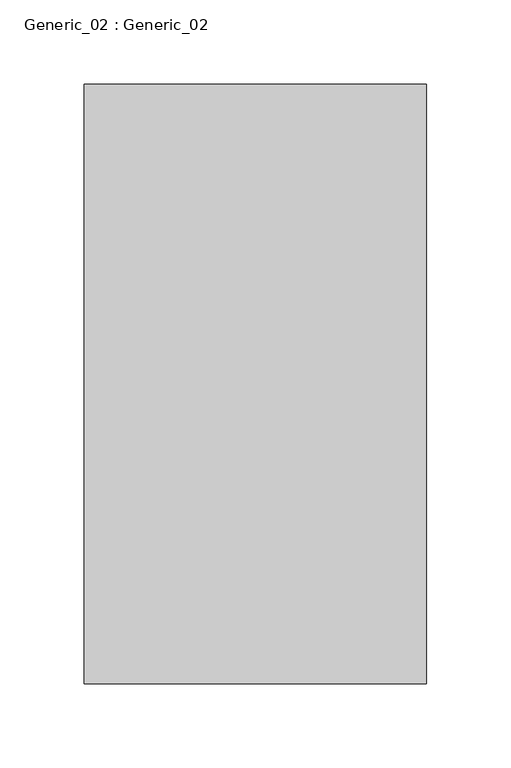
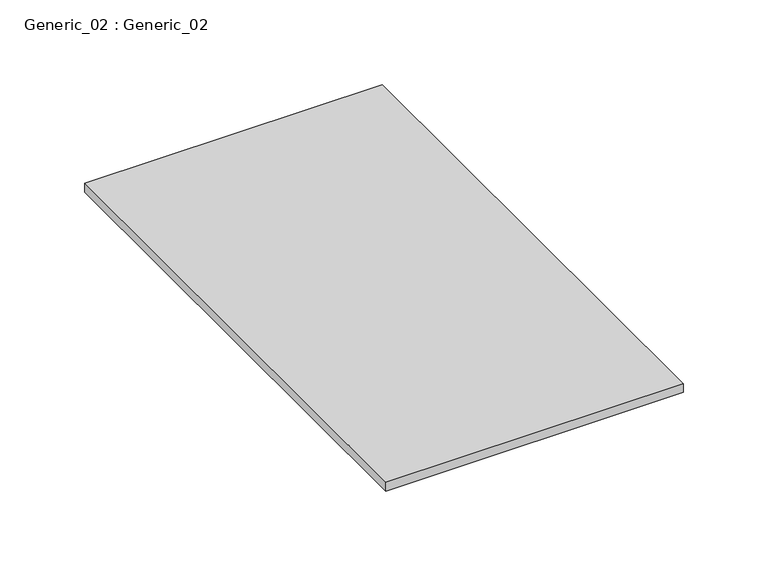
"""IFC4 building model written with IfcOpenShell, lengths in millimetres: proxy geometry, Generic_02 : Generic_02."""

from ifc_helpers import new_model, si_unit, frame, origin, place, context, project, spatial, polyline, outline, extrude, source, transform, mapped, element, save


def generic_02_generic_02_b9079739(model_context):
    return source(origin(), model_context, "Body", "SweptSolid", [
        extrude(outline(polyline([(203.2, -355.6), (0.0, -355.6), (0.0, 0.0), (203.2, 0.0), (203.2, -355.6)])), frame((0.0, 0.0, -6.35), z_axis=(0.0, 0.0, 1.0), x_axis=(1.0, 0.0, 0.0)), (0.0, 0.0, 1.0), 6.35),
    ])


if __name__ == "__main__":
    model = new_model("IFC4")
    model_context = context("Model", 3, world=origin())
    ifc_project = project(units=[si_unit("LENGTHUNIT", "METRE", prefix="MILLI")], contexts=[model_context])
    site = spatial("IfcSite", under=ifc_project)
    building = spatial("IfcBuilding", under=site)
    placement = place(None, origin())
    generic_02_generic_02_shape = generic_02_generic_02_b9079739(model_context)
    element("IfcBuildingElementProxy", 1, Name="Generic_02 : Generic_02", ObjectType="Generic_02 : Generic_02", at=placement, inside=building, context=model_context, shape_type="MappedRepresentation", body=[
        mapped(generic_02_generic_02_shape, transform((0.0, 0.0, 0.0), x_axis=(1.0, 0.0, 0.0), y_axis=(0.0, 1.0, 0.0), z_axis=(0.0, 0.0, 1.0))),
    ])
    save(model, "model.ifc")
